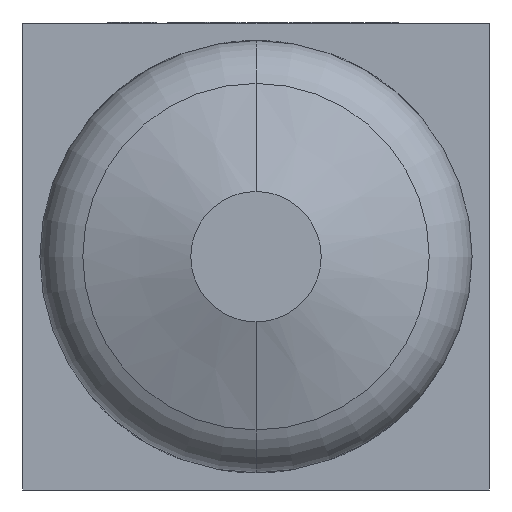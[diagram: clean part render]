
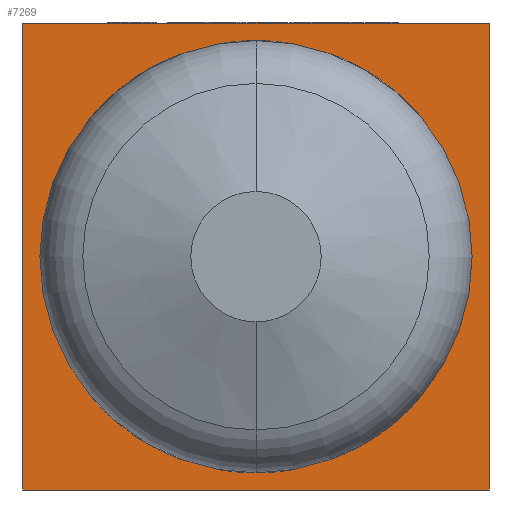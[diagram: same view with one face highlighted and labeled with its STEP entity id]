
A CAD part, front view. The second image highlights one B-rep face of the part: STEP entity #7269.
In plain terms, the highlighted planar face has unit normal (0, -1, 0).
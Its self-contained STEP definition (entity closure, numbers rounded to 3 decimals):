
#141 = LINE ( 'NONE', #1530, #679 ) ;
#409 = EDGE_CURVE ( 'NONE', #595, #11554, #10708, .T. ) ;
#471 = DIRECTION ( 'NONE',  ( 1., 0., 0. ) ) ;
#595 = VERTEX_POINT ( 'NONE', #5705 ) ;
#667 = CARTESIAN_POINT ( 'NONE',  ( -34., -34., -34. ) ) ;
#679 = VECTOR ( 'NONE', #471, 1000. ) ;
#1475 = CARTESIAN_POINT ( 'NONE',  ( 34., -34., 34. ) ) ;
#1530 = CARTESIAN_POINT ( 'NONE',  ( -34., -34., 34. ) ) ;
#2828 = LINE ( 'NONE', #667, #6804 ) ;
#3395 = VECTOR ( 'NONE', #11254, 1000. ) ;
#3471 = EDGE_CURVE ( 'NONE', #11554, #8720, #2828, .T. ) ;
#4297 = DIRECTION ( 'NONE',  ( 0., 0., 1. ) ) ;
#4452 = ORIENTED_EDGE ( 'NONE', *, *, #11460, .F. ) ;
#4958 = VERTEX_POINT ( 'NONE', #1475 ) ;
#5705 = CARTESIAN_POINT ( 'NONE',  ( -34., -34., 34. ) ) ;
#6019 = ORIENTED_EDGE ( 'NONE', *, *, #409, .T. ) ;
#6358 = CARTESIAN_POINT ( 'NONE',  ( -34., -34., -34. ) ) ;
#6566 = CARTESIAN_POINT ( 'NONE',  ( -34., -34., 34. ) ) ;
#6804 = VECTOR ( 'NONE', #7336, 1000. ) ;
#7230 = ORIENTED_EDGE ( 'NONE', *, *, #8934, .F. ) ;
#7269 = ADVANCED_FACE ( 'NONE', ( #12086 ), #10701, .F. ) ;
#7336 = DIRECTION ( 'NONE',  ( 1., 0., 0. ) ) ;
#7528 = LINE ( 'NONE', #8859, #12561 ) ;
#7919 = DIRECTION ( 'NONE',  ( 0., 0., -1. ) ) ;
#8720 = VERTEX_POINT ( 'NONE', #10648 ) ;
#8725 = DIRECTION ( 'NONE',  ( 0., 1., 0. ) ) ;
#8859 = CARTESIAN_POINT ( 'NONE',  ( 34., -34., 34. ) ) ;
#8934 = EDGE_CURVE ( 'NONE', #4958, #8720, #7528, .T. ) ;
#9236 = CARTESIAN_POINT ( 'NONE',  ( -34., -34., 34. ) ) ;
#9238 = ORIENTED_EDGE ( 'NONE', *, *, #3471, .T. ) ;
#9275 = AXIS2_PLACEMENT_3D ( 'NONE', #6566, #8725, #4297 ) ;
#9527 = EDGE_LOOP ( 'NONE', ( #9238, #7230, #4452, #6019 ) ) ;
#10648 = CARTESIAN_POINT ( 'NONE',  ( 34., -34., -34. ) ) ;
#10701 = PLANE ( 'NONE',  #9275 ) ;
#10708 = LINE ( 'NONE', #9236, #3395 ) ;
#11254 = DIRECTION ( 'NONE',  ( 0., 0., -1. ) ) ;
#11460 = EDGE_CURVE ( 'NONE', #595, #4958, #141, .T. ) ;
#11554 = VERTEX_POINT ( 'NONE', #6358 ) ;
#12086 = FACE_OUTER_BOUND ( 'NONE', #9527, .T. ) ;
#12561 = VECTOR ( 'NONE', #7919, 1000. ) ;
